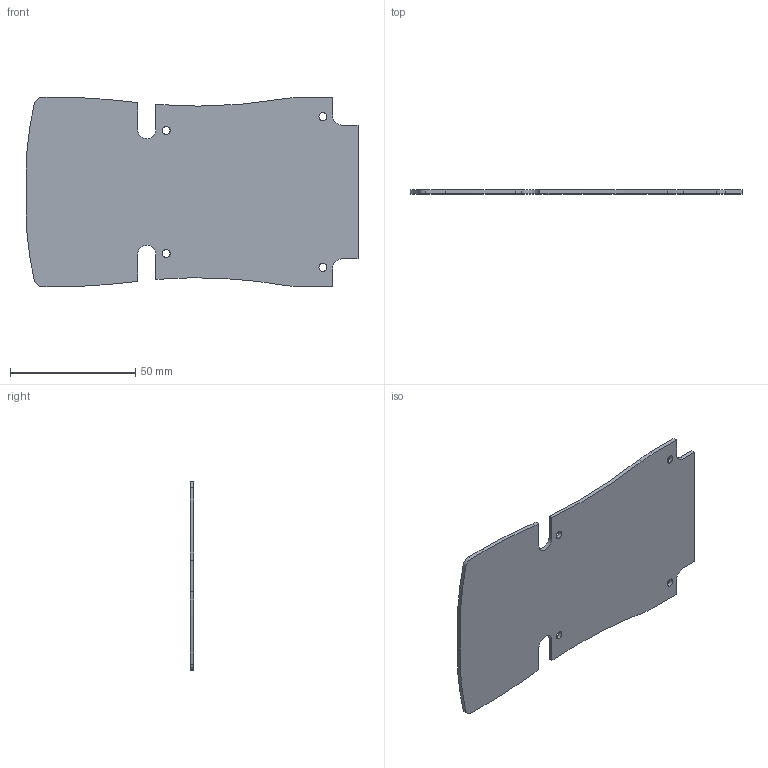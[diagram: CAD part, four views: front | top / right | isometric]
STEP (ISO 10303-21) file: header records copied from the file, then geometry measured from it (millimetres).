
FILE_DESCRIPTION (( 'STEP AP214' ), '1' );
FILE_NAME ('VM-35C-PCB.STEP', '2025-03-26T16:54:44', ( '' ), ( '' ), 'SwSTEP 2.0', 'SolidWorks 2025', '' );
FILE_SCHEMA (( 'AUTOMOTIVE_DESIGN' ));
Length unit declared in the file: inch
Products named in the file (1): VM-35C-PCB
Bounding box: 132.79 x 1.59 x 75.6 mm (x, y, z)
Volume: 14527.4 mm3; surface area: 19088.9 mm2
Topology: 1 solids, 1 shells, 42 faces, 120 edges, 80 vertices
Faces by surface type: cylinder 26, plane 16
Entity records: 1439 total; most frequent: DIRECTION 258, CARTESIAN_POINT 243, ORIENTED_EDGE 240, EDGE_CURVE 120, AXIS2_PLACEMENT_3D 95, VERTEX_POINT 80, VECTOR 68, LINE 68
